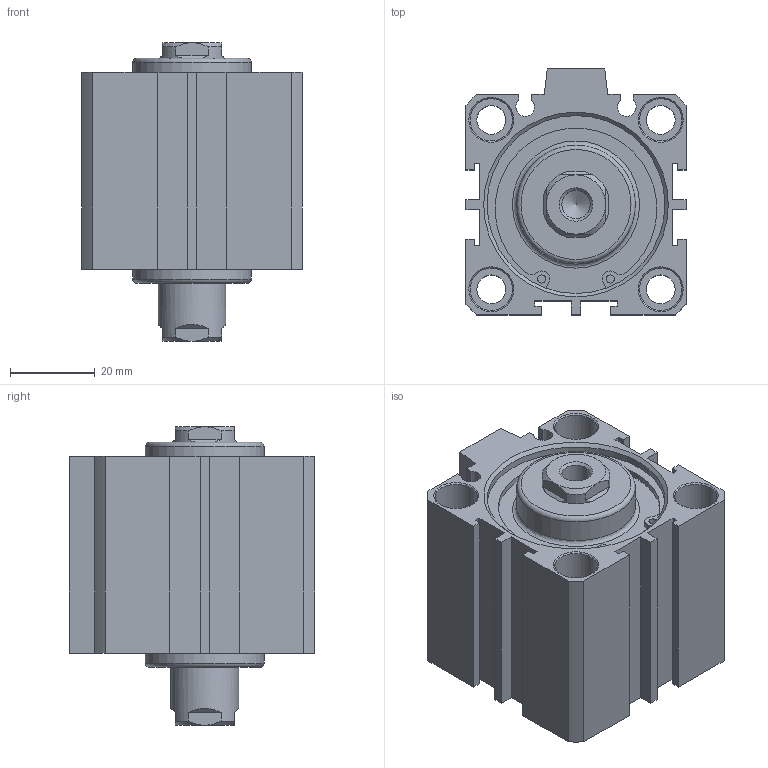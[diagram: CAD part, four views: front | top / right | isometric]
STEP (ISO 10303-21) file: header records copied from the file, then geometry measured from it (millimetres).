
FILE_DESCRIPTION((''),'2;1');
FILE_NAME('I:\3D電子目錄\氣缸\JDD\JDD-S\JDD40-S\JDD40x10-S.stp','2007-02-09T08:31:45',('662F206'),(''),'Autodesk Inventor 10','Autodesk Inventor 10','');
FILE_SCHEMA(('AUTOMOTIVE_DESIGN { 1 0 10303 214 1 1 1 1 }'));
Length unit declared in the file: millimetre
Products named in the file (3): JDD40-S; R 形環 42
Assembly tree (3 placements, depth 2):
  JDD40-S
    JDD40-S
    R 形環 42  x2
Bounding box: 52 x 58 x 70.5 mm (x, y, z)
Volume: 110267.4 mm3; surface area: 30166.8 mm2
Topology: 3 solids, 3 shells, 179 faces, 431 edges, 280 vertices
Faces by surface type: plane 98, cylinder 49, cone 24, bspline 6, torus 2
Full cylindrical faces by diameter (mm): 1.9 x4, 2.2 x2, 6.8 x4, 10 x8, 16 x1, 28 x2, 42 x4, 44.5 x2
Entity records: 4755 total; most frequent: CARTESIAN_POINT 955, DIRECTION 792, ORIENTED_EDGE 686, EDGE_CURVE 343, AXIS2_PLACEMENT_3D 298, VERTEX_POINT 251, EDGE_LOOP 250, VECTOR 196
